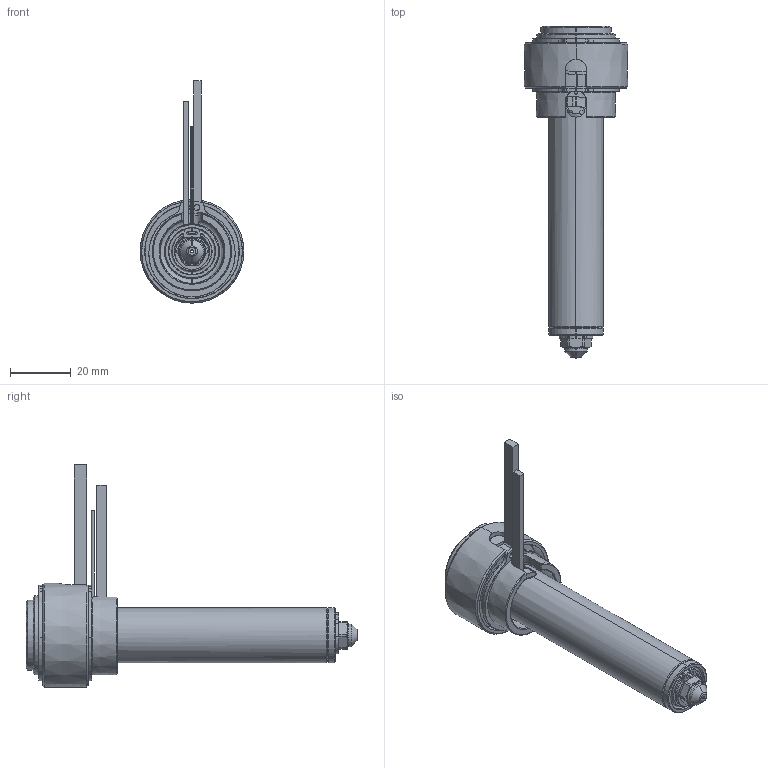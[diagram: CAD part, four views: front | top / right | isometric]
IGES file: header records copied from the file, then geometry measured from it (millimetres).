
Start section: SolidWorks IGES file using analytic representation for surfaces
Global section: file name: C:\Documents and Settings\ws-20\Desktop\TEM\UGER2503-M-A-0 [Øb-0.90 ØC-5.0].IGS; native system: SolidWorks 2012; preprocessor: SolidWorks 2012; author: ws-20; date: 120405.105155; units: millimetre
Bounding box: 34 x 108.9 x 72.9 mm (x, y, z)
Surface area: 24599.1 mm2 (no closed solid volume)
Topology: 0 solids, 0 shells, 188 faces, 2411 edges, 2411 vertices
Faces by surface type: revolution 117, bspline 71
